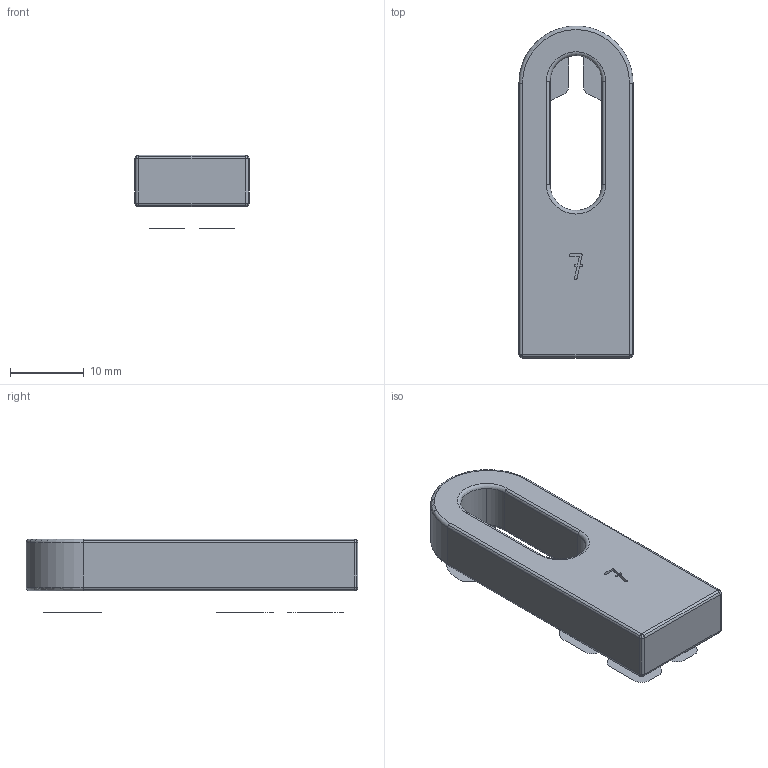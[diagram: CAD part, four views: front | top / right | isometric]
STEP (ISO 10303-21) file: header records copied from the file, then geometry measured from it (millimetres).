
FILE_DESCRIPTION(('STEP AP214'),'1');
FILE_NAME('BF-20240124-cad-shim1_7mm_light-02cbr.stp','2024-01-24T17:46:51',(' '),(' '),'Spatial InterOp 3D',' ',' ');
FILE_SCHEMA(('AUTOMOTIVE_DESIGN { 1 0 10303 214 1 1 1 1 }'));
Length unit declared in the file: metre
Products named in the file (1): Volumenkörper
Bounding box: 15.5 x 44.99 x 10 mm (x, y, z)
Volume: 3066.4 mm3; surface area: 2747.8 mm2
Topology: 1 solids, 7 shells, 234 faces, 619 edges, 392 vertices
Faces by surface type: cylinder 120, plane 46, torus 42, extrusion 18, sphere 8
Entity records: 7374 total; most frequent: CARTESIAN_POINT 1401, DIRECTION 1347, ORIENTED_EDGE 1170, EDGE_CURVE 611, AXIS2_PLACEMENT_3D 534, VERTEX_POINT 390, CIRCLE 314, VECTOR 279
